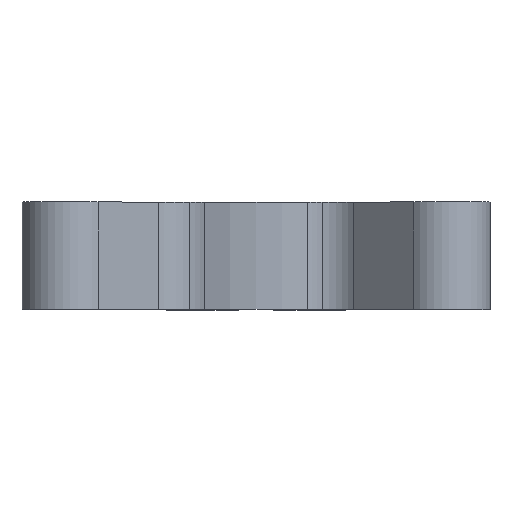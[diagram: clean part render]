
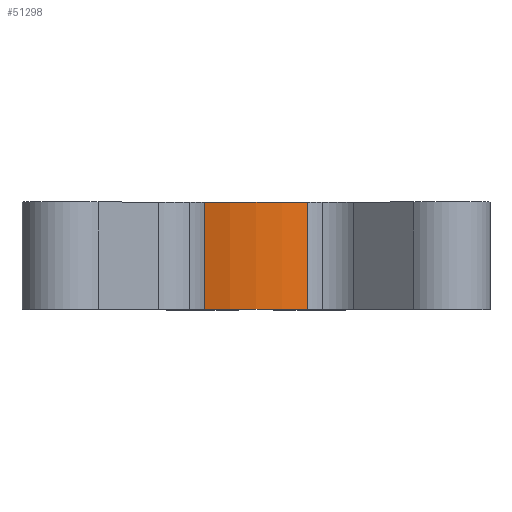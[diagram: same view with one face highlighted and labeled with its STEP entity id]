
A CAD part, top view. The second image highlights one B-rep face of the part: STEP entity #51298.
In plain terms, the highlighted cylindrical face has radius 11.287 mm (diameter 22.575 mm), a partial arc.
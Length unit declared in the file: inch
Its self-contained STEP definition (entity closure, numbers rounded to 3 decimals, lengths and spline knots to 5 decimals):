
#323 = EDGE_CURVE ( 'NONE', #20252, #8600, #600, .T. ) ;
#600 = CIRCLE ( 'NONE', #25729, 0.44439 ) ;
#3271 = DIRECTION ( 'NONE',  ( 0., 0., -1. ) ) ;
#4553 = CARTESIAN_POINT ( 'NONE',  ( 0.14435, 0., 0.42029 ) ) ;
#4882 = CARTESIAN_POINT ( 'NONE',  ( -0.14435, 0., 0.42029 ) ) ;
#4972 = VECTOR ( 'NONE', #52122, 39.37008 ) ;
#6448 = CARTESIAN_POINT ( 'NONE',  ( 0.14435, 0.3, 0.42029 ) ) ;
#7251 = ORIENTED_EDGE ( 'NONE', *, *, #53735, .T. ) ;
#8513 = ORIENTED_EDGE ( 'NONE', *, *, #323, .T. ) ;
#8600 = VERTEX_POINT ( 'NONE', #4553 ) ;
#9510 = CARTESIAN_POINT ( 'NONE',  ( 0.14435, 0.3, 0.42029 ) ) ;
#10162 = CYLINDRICAL_SURFACE ( 'NONE', #36732, 0.44439 ) ;
#10554 = EDGE_CURVE ( 'NONE', #15605, #20252, #39934, .T. ) ;
#11513 = CARTESIAN_POINT ( 'NONE',  ( -0.14435, 0.3, 0.42029 ) ) ;
#11695 = DIRECTION ( 'NONE',  ( 0., 0., 1. ) ) ;
#12243 = LINE ( 'NONE', #9510, #4972 ) ;
#13251 = ORIENTED_EDGE ( 'NONE', *, *, #10554, .T. ) ;
#15605 = VERTEX_POINT ( 'NONE', #11513 ) ;
#19571 = ORIENTED_EDGE ( 'NONE', *, *, #48125, .F. ) ;
#20252 = VERTEX_POINT ( 'NONE', #4882 ) ;
#22554 = VECTOR ( 'NONE', #54105, 39.37008 ) ;
#24722 = CARTESIAN_POINT ( 'NONE',  ( 0., 0.3, 0. ) ) ;
#24745 = DIRECTION ( 'NONE',  ( 0., 1., 0. ) ) ;
#24935 = CARTESIAN_POINT ( 'NONE',  ( 0., 0., 0. ) ) ;
#25587 = DIRECTION ( 'NONE',  ( 0., 1., 0. ) ) ;
#25729 = AXIS2_PLACEMENT_3D ( 'NONE', #24935, #24745, #50488 ) ;
#32710 = CIRCLE ( 'NONE', #53369, 0.44439 ) ;
#32774 = VERTEX_POINT ( 'NONE', #6448 ) ;
#36732 = AXIS2_PLACEMENT_3D ( 'NONE', #24722, #42098, #3271 ) ;
#39934 = LINE ( 'NONE', #49811, #22554 ) ;
#40943 = FACE_OUTER_BOUND ( 'NONE', #49476, .T. ) ;
#42098 = DIRECTION ( 'NONE',  ( 0., -1., 0. ) ) ;
#48125 = EDGE_CURVE ( 'NONE', #15605, #32774, #32710, .T. ) ;
#49476 = EDGE_LOOP ( 'NONE', ( #8513, #7251, #19571, #13251 ) ) ;
#49811 = CARTESIAN_POINT ( 'NONE',  ( -0.14435, 0.3, 0.42029 ) ) ;
#50488 = DIRECTION ( 'NONE',  ( 0., 0., 1. ) ) ;
#51298 = ADVANCED_FACE ( 'NONE', ( #40943 ), #10162, .T. ) ;
#52122 = DIRECTION ( 'NONE',  ( 0., 1., 0. ) ) ;
#53369 = AXIS2_PLACEMENT_3D ( 'NONE', #54307, #25587, #11695 ) ;
#53735 = EDGE_CURVE ( 'NONE', #8600, #32774, #12243, .T. ) ;
#54105 = DIRECTION ( 'NONE',  ( 0., -1., 0. ) ) ;
#54307 = CARTESIAN_POINT ( 'NONE',  ( 0., 0.3, 0. ) ) ;
